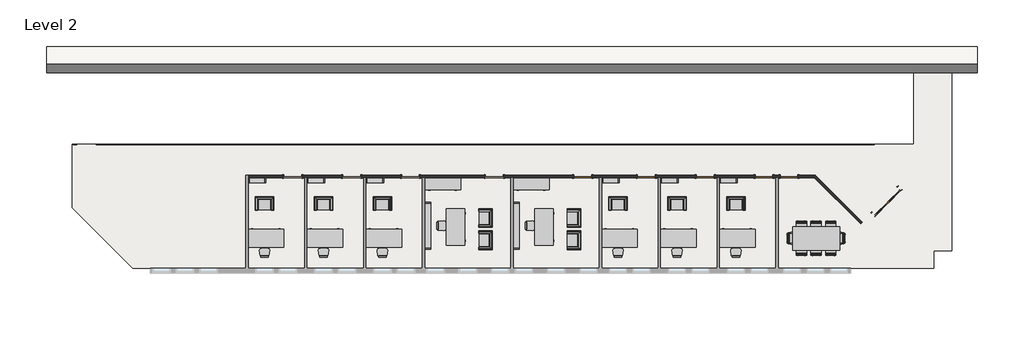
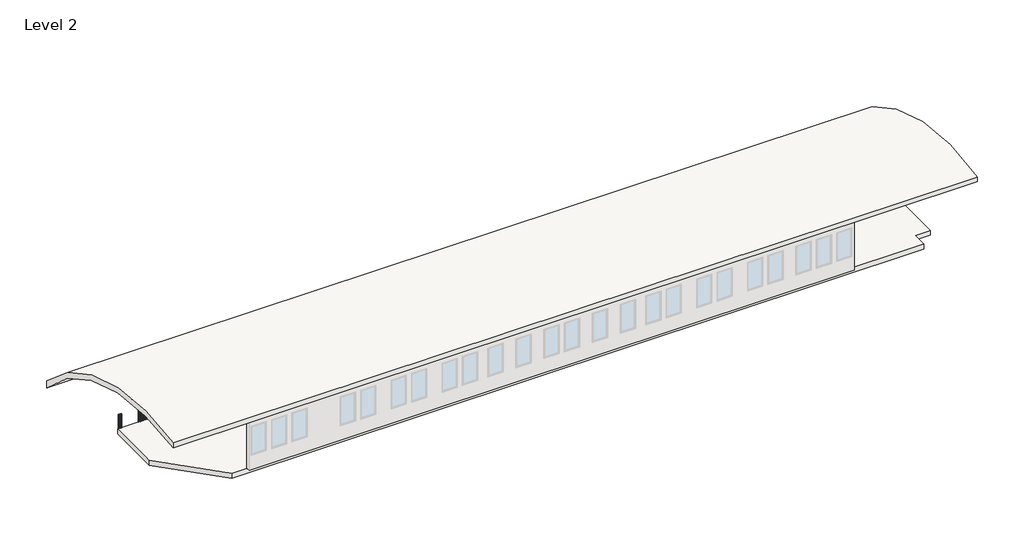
# One storey, part 2 of 2: 45 furniture elements, 6 doors, 2 railings, 2 walls, 1 roof, 1 slab.
"""IFC4 building model written with IfcOpenShell, lengths in millimetres."""

from ifc_helpers import new_model, si_unit, point, frame, frame_2d, origin, place, context, project, spatial, polyline, circle_curve, trimmed, segment, composite_curve, outline, extrude, faceted_brep, transform, mapped, element, save
from components import door_a1a3006e, door_88503111, door_eb9f8b14, chair_corbu_chair_corbu_2764bdef, chair_desk_chair_desk_ccc35c8f, chair_task_chair_task_b7f3823b, chair_task_arms_chair_task_arms_3b363349, furniture_7b927048, furniture_2fc54265, furniture_417d203a, furniture_b1da5ad0, furniture_bf544a6a, handrail_rectangular_fb009ace, handrail_rectangular_5135126e, handrail_rectangular_f3f7196c, handrail_rectangular_199c1d4d

model = new_model("IFC4")

# Units and contexts
model_context = context("Model", 3, world=origin())
ifc_project = project(units=[si_unit("LENGTHUNIT", "METRE", prefix="MILLI")], contexts=[model_context])

# Site, building, storey
site = spatial("IfcSite", under=ifc_project)
building = spatial("IfcBuilding", under=site)
storey = spatial("IfcBuildingStorey", under=building, Name="Level 2", Elevation=3657.6)

# Doors
placement = place(None, origin())
door_shape = door_a1a3006e(model_context)
element("IfcDoor", 1, ObjectType="Double-Glass 1 : 72\" x 84\"", at=placement, inside=storey, context=model_context, shape_type="MappedRepresentation", body=[
    mapped(door_shape, transform((30113.8004206, 1134.5614543, 3657.6), x_axis=(-0.707106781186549, -0.7071067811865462, 0.0), y_axis=(0.7071067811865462, -0.707106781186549, 0.0), z_axis=(0.0, 0.0, 1.0))),
])
door_2_shape = door_88503111(model_context)
element("IfcDoor", 2, ObjectType="Single-Flush : 36\" x 84\"", at=placement, inside=storey, context=model_context, shape_type="MappedRepresentation", body=[
    mapped(door_2_shape, transform((25068.3896094, 2425.2975872, 3657.6), x_axis=(-1.0, 0.0, 0.0), y_axis=(0.0, -1.0, 0.0), z_axis=(0.0, 0.0, 1.0))),
])
door_3_shape = door_eb9f8b14(model_context)
element("IfcDoor", 3, ObjectType="Single-Flush : 36\" x 84\"", at=placement, inside=storey, context=model_context, shape_type="MappedRepresentation", body=[
    mapped(door_3_shape, transform((17691.2771094, 2425.2975872, 3657.6), x_axis=(1.0, 0.0, 0.0), y_axis=(0.0, 1.0, 0.0), z_axis=(0.0, 0.0, 1.0))),
])
element("IfcDoor", 4, ObjectType="Single-Flush : 36\" x 84\"", at=placement, inside=storey, context=model_context, shape_type="MappedRepresentation", body=[
    mapped(door_3_shape, transform((20739.2771094, 2425.2975872, 3657.6), x_axis=(1.0, 0.0, 0.0), y_axis=(0.0, 1.0, 0.0), z_axis=(0.0, 0.0, 1.0))),
])
element("IfcDoor", 5, ObjectType="Single-Flush : 36\" x 84\"", at=placement, inside=storey, context=model_context, shape_type="MappedRepresentation", body=[
    mapped(door_3_shape, transform((23787.2771094, 2425.2975872, 3657.6), x_axis=(1.0, 0.0, 0.0), y_axis=(0.0, 1.0, 0.0), z_axis=(0.0, 0.0, 1.0))),
])
element("IfcDoor", 6, ObjectType="Single-Flush : 36\" x 84\"", at=placement, inside=storey, context=model_context, shape_type="MappedRepresentation", body=[
    mapped(door_3_shape, transform((14400.3896094, 2425.2975872, 3657.6), x_axis=(1.0, 0.0, 0.0), y_axis=(0.0, 1.0, 0.0), z_axis=(0.0, 0.0, 1.0))),
])

# Furniture
chair_corbu_chair_corbu_shape = chair_corbu_chair_corbu_2764bdef(model_context)
element("IfcFurniture", 7, ObjectType="Chair-Corbu : Chair-Corbu", at=placement, inside=storey, context=model_context, shape_type="MappedRepresentation", body=[
    mapped(chair_corbu_chair_corbu_shape, transform((-2632.1841611, 561.520538, 3657.6), x_axis=(1.0, 0.0, 0.0), y_axis=(0.0, 1.0, 0.0), z_axis=(0.0, 0.0, 1.0))),
])
element("IfcFurniture", 8, ObjectType="Chair-Corbu : Chair-Corbu", at=placement, inside=storey, context=model_context, shape_type="MappedRepresentation", body=[
    mapped(chair_corbu_chair_corbu_shape, transform((415.8158389, 561.520538, 3657.6), x_axis=(1.0, 0.0, 0.0), y_axis=(0.0, 1.0, 0.0), z_axis=(0.0, 0.0, 1.0))),
])
element("IfcFurniture", 9, ObjectType="Chair-Corbu : Chair-Corbu", at=placement, inside=storey, context=model_context, shape_type="MappedRepresentation", body=[
    mapped(chair_corbu_chair_corbu_shape, transform((15655.8158389, 561.520538, 3657.6), x_axis=(1.0, 0.0, 0.0), y_axis=(0.0, 1.0, 0.0), z_axis=(0.0, 0.0, 1.0))),
])
element("IfcFurniture", 10, ObjectType="Chair-Corbu : Chair-Corbu", at=placement, inside=storey, context=model_context, shape_type="MappedRepresentation", body=[
    mapped(chair_corbu_chair_corbu_shape, transform((18703.8158389, 561.520538, 3657.6), x_axis=(1.0, 0.0, 0.0), y_axis=(0.0, 1.0, 0.0), z_axis=(0.0, 0.0, 1.0))),
])
element("IfcFurniture", 11, ObjectType="Chair-Corbu : Chair-Corbu", at=placement, inside=storey, context=model_context, shape_type="MappedRepresentation", body=[
    mapped(chair_corbu_chair_corbu_shape, transform((21751.8158389, 561.520538, 3657.6), x_axis=(1.0, 0.0, 0.0), y_axis=(0.0, 1.0, 0.0), z_axis=(0.0, 0.0, 1.0))),
])
element("IfcFurniture", 12, ObjectType="Chair-Corbu : Chair-Corbu", at=placement, inside=storey, context=model_context, shape_type="MappedRepresentation", body=[
    mapped(chair_corbu_chair_corbu_shape, transform((8904.4125603, 839.6713577, 3657.6), x_axis=(0.0, -1.0, 0.0), y_axis=(1.0, 0.0, 0.0), z_axis=(0.0, 0.0, 1.0))),
])
element("IfcFurniture", 13, ObjectType="Chair-Corbu : Chair-Corbu", at=placement, inside=storey, context=model_context, shape_type="MappedRepresentation", body=[
    mapped(chair_corbu_chair_corbu_shape, transform((8904.4125603, -303.3286423, 3657.6), x_axis=(0.0, -1.0, 0.0), y_axis=(1.0, 0.0, 0.0), z_axis=(0.0, 0.0, 1.0))),
])
element("IfcFurniture", 14, ObjectType="Chair-Corbu : Chair-Corbu", at=placement, inside=storey, context=model_context, shape_type="MappedRepresentation", body=[
    mapped(chair_corbu_chair_corbu_shape, transform((3463.8158389, 561.520538, 3657.6), x_axis=(1.0, 0.0, 0.0), y_axis=(0.0, 1.0, 0.0), z_axis=(0.0, 0.0, 1.0))),
])
element("IfcFurniture", 15, ObjectType="Chair-Corbu : Chair-Corbu", at=placement, inside=storey, context=model_context, shape_type="MappedRepresentation", body=[
    mapped(chair_corbu_chair_corbu_shape, transform((13476.4125603, 839.6713577, 3657.6), x_axis=(0.0, -1.0, 0.0), y_axis=(1.0, 0.0, 0.0), z_axis=(0.0, 0.0, 1.0))),
])
element("IfcFurniture", 16, ObjectType="Chair-Corbu : Chair-Corbu", at=placement, inside=storey, context=model_context, shape_type="MappedRepresentation", body=[
    mapped(chair_corbu_chair_corbu_shape, transform((13476.4125603, -303.3286423, 3657.6), x_axis=(0.0, -1.0, 0.0), y_axis=(1.0, 0.0, 0.0), z_axis=(0.0, 0.0, 1.0))),
])
chair_desk_chair_desk_shape = chair_desk_chair_desk_ccc35c8f(model_context)
element("IfcFurniture", 17, ObjectType="Chair-Desk : Chair-Desk", at=placement, inside=storey, context=model_context, shape_type="MappedRepresentation", body=[
    mapped(chair_desk_chair_desk_shape, transform((-2058.8103906, -1689.5024128, 3657.6), x_axis=(1.0, 0.0, 0.0), y_axis=(0.0, 1.0, 0.0), z_axis=(0.0, 0.0, 1.0))),
])
element("IfcFurniture", 18, ObjectType="Chair-Desk : Chair-Desk", at=placement, inside=storey, context=model_context, shape_type="MappedRepresentation", body=[
    mapped(chair_desk_chair_desk_shape, transform((989.1896094, -1689.5024128, 3657.6), x_axis=(1.0, 0.0, 0.0), y_axis=(0.0, 1.0, 0.0), z_axis=(0.0, 0.0, 1.0))),
])
element("IfcFurniture", 19, ObjectType="Chair-Desk : Chair-Desk", at=placement, inside=storey, context=model_context, shape_type="MappedRepresentation", body=[
    mapped(chair_desk_chair_desk_shape, transform((16229.1896094, -1689.5024128, 3657.6), x_axis=(1.0, 0.0, 0.0), y_axis=(0.0, 1.0, 0.0), z_axis=(0.0, 0.0, 1.0))),
])
element("IfcFurniture", 20, ObjectType="Chair-Desk : Chair-Desk", at=placement, inside=storey, context=model_context, shape_type="MappedRepresentation", body=[
    mapped(chair_desk_chair_desk_shape, transform((19277.1896094, -1689.5024128, 3657.6), x_axis=(1.0, 0.0, 0.0), y_axis=(0.0, 1.0, 0.0), z_axis=(0.0, 0.0, 1.0))),
])
element("IfcFurniture", 21, ObjectType="Chair-Desk : Chair-Desk", at=placement, inside=storey, context=model_context, shape_type="MappedRepresentation", body=[
    mapped(chair_desk_chair_desk_shape, transform((22325.1896094, -1689.5024128, 3657.6), x_axis=(1.0, 0.0, 0.0), y_axis=(0.0, 1.0, 0.0), z_axis=(0.0, 0.0, 1.0))),
])
element("IfcFurniture", 22, ObjectType="Chair-Desk : Chair-Desk", at=placement, inside=storey, context=model_context, shape_type="MappedRepresentation", body=[
    mapped(chair_desk_chair_desk_shape, transform((6911.7586481, -128.9899128, 3657.6), x_axis=(0.0, -1.0, 0.0), y_axis=(1.0, 0.0, 0.0), z_axis=(0.0, 0.0, 1.0))),
])
element("IfcFurniture", 23, ObjectType="Chair-Desk : Chair-Desk", at=placement, inside=storey, context=model_context, shape_type="MappedRepresentation", body=[
    mapped(chair_desk_chair_desk_shape, transform((4037.1896094, -1689.5024128, 3657.6), x_axis=(1.0, 0.0, 0.0), y_axis=(0.0, 1.0, 0.0), z_axis=(0.0, 0.0, 1.0))),
])
element("IfcFurniture", 24, ObjectType="Chair-Desk : Chair-Desk", at=placement, inside=storey, context=model_context, shape_type="MappedRepresentation", body=[
    mapped(chair_desk_chair_desk_shape, transform((11483.7586481, -128.9899128, 3657.6), x_axis=(0.0, -1.0, 0.0), y_axis=(1.0, 0.0, 0.0), z_axis=(0.0, 0.0, 1.0))),
])
chair_task_chair_task_shape = chair_task_chair_task_b7f3823b(model_context)
element("IfcFurniture", 25, ObjectType="Chair-Task : Chair-Task", at=placement, inside=storey, context=model_context, shape_type="MappedRepresentation", body=[
    mapped(chair_task_chair_task_shape, transform((25572.0033185, -1403.6483145, 3657.6), x_axis=(1.0, 0.0, 0.0), y_axis=(0.0, 1.0, 0.0), z_axis=(0.0, 0.0, 1.0))),
])
element("IfcFurniture", 26, ObjectType="Chair-Task : Chair-Task", at=placement, inside=storey, context=model_context, shape_type="MappedRepresentation", body=[
    mapped(chair_task_chair_task_shape, transform((25853.9849578, -146.5565112, 3657.6), x_axis=(-1.0, 0.0, 0.0), y_axis=(0.0, -1.0, 0.0), z_axis=(0.0, 0.0, 1.0))),
])
element("IfcFurniture", 27, ObjectType="Chair-Task : Chair-Task", at=placement, inside=storey, context=model_context, shape_type="MappedRepresentation", body=[
    mapped(chair_task_chair_task_shape, transform((27096.0033185, -1403.6483145, 3657.6), x_axis=(1.0, 0.0, 0.0), y_axis=(0.0, 1.0, 0.0), z_axis=(0.0, 0.0, 1.0))),
])
element("IfcFurniture", 28, ObjectType="Chair-Task : Chair-Task", at=placement, inside=storey, context=model_context, shape_type="MappedRepresentation", body=[
    mapped(chair_task_chair_task_shape, transform((26334.0033185, -1403.6483145, 3657.6), x_axis=(1.0, 0.0, 0.0), y_axis=(0.0, 1.0, 0.0), z_axis=(0.0, 0.0, 1.0))),
])
element("IfcFurniture", 29, ObjectType="Chair-Task : Chair-Task", at=placement, inside=storey, context=model_context, shape_type="MappedRepresentation", body=[
    mapped(chair_task_chair_task_shape, transform((27377.9849578, -146.5565112, 3657.6), x_axis=(-1.0, 0.0, 0.0), y_axis=(0.0, -1.0, 0.0), z_axis=(0.0, 0.0, 1.0))),
])
element("IfcFurniture", 30, ObjectType="Chair-Task : Chair-Task", at=placement, inside=storey, context=model_context, shape_type="MappedRepresentation", body=[
    mapped(chair_task_chair_task_shape, transform((26615.9849578, -146.5565112, 3657.6), x_axis=(-1.0, 0.0, 0.0), y_axis=(0.0, -1.0, 0.0), z_axis=(0.0, 0.0, 1.0))),
])
chair_task_arms_chair_task_arms_shape = chair_task_arms_chair_task_arms_3b363349(model_context)
element("IfcFurniture", 31, ObjectType="Chair-Task Arms : Chair-Task Arms", at=placement, inside=storey, context=model_context, shape_type="MappedRepresentation", body=[
    mapped(chair_task_arms_chair_task_arms_shape, transform((25236.8482365, -634.1115932, 3657.6), x_axis=(0.0, -1.0, 0.0), y_axis=(1.0, 0.0, 0.0), z_axis=(0.0, 0.0, 1.0))),
])
element("IfcFurniture", 32, ObjectType="Chair-Task Arms : Chair-Task Arms", at=placement, inside=storey, context=model_context, shape_type="MappedRepresentation", body=[
    mapped(chair_task_arms_chair_task_arms_shape, transform((27713.1400398, -916.0932325, 3657.6), x_axis=(0.0, 1.0000000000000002, 0.0), y_axis=(-1.0000000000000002, 0.0, 0.0), z_axis=(0.0, 0.0, 1.0))),
])
furniture_shape = furniture_7b927048(model_context)
element("IfcFurniture", 33, ObjectType="Credenza : 72\" x 24\"", at=placement, inside=storey, context=model_context, shape_type="MappedRepresentation", body=[
    mapped(furniture_shape, transform((7087.5578471, 2054.0047593, 3657.6), x_axis=(1.0, 0.0, 0.0), y_axis=(0.0, 1.0, 0.0), z_axis=(0.0, 0.0, 1.0))),
])
element("IfcFurniture", 34, ObjectType="Credenza : 72\" x 24\"", at=placement, inside=storey, context=model_context, shape_type="MappedRepresentation", body=[
    mapped(furniture_shape, transform((11659.5578471, 2054.0047593, 3657.6), x_axis=(1.0, 0.0, 0.0), y_axis=(0.0, 1.0, 0.0), z_axis=(0.0, 0.0, 1.0))),
])
furniture_2_shape = furniture_2fc54265(model_context)
element("IfcFurniture", 35, ObjectType="Desk : 72\" x 36\"", at=placement, inside=storey, context=model_context, shape_type="MappedRepresentation", body=[
    mapped(furniture_2_shape, transform((-2911.2978906, -1232.3024128, 3657.6), x_axis=(1.0, 0.0, 0.0), y_axis=(0.0, 1.0, 0.0), z_axis=(0.0, 0.0, 1.0))),
])
element("IfcFurniture", 36, ObjectType="Desk : 72\" x 36\"", at=placement, inside=storey, context=model_context, shape_type="MappedRepresentation", body=[
    mapped(furniture_2_shape, transform((136.7021094, -1232.3024128, 3657.6), x_axis=(1.0, 0.0, 0.0), y_axis=(0.0, 1.0, 0.0), z_axis=(0.0, 0.0, 1.0))),
])
element("IfcFurniture", 37, ObjectType="Desk : 72\" x 36\"", at=placement, inside=storey, context=model_context, shape_type="MappedRepresentation", body=[
    mapped(furniture_2_shape, transform((15376.7021094, -1232.3024128, 3657.6), x_axis=(1.0, 0.0, 0.0), y_axis=(0.0, 1.0, 0.0), z_axis=(0.0, 0.0, 1.0))),
])
element("IfcFurniture", 38, ObjectType="Desk : 72\" x 36\"", at=placement, inside=storey, context=model_context, shape_type="MappedRepresentation", body=[
    mapped(furniture_2_shape, transform((18424.7021094, -1232.3024128, 3657.6), x_axis=(1.0, 0.0, 0.0), y_axis=(0.0, 1.0, 0.0), z_axis=(0.0, 0.0, 1.0))),
])
element("IfcFurniture", 39, ObjectType="Desk : 72\" x 36\"", at=placement, inside=storey, context=model_context, shape_type="MappedRepresentation", body=[
    mapped(furniture_2_shape, transform((21472.7021094, -1232.3024128, 3657.6), x_axis=(1.0, 0.0, 0.0), y_axis=(0.0, 1.0, 0.0), z_axis=(0.0, 0.0, 1.0))),
])
element("IfcFurniture", 40, ObjectType="Desk : 72\" x 36\"", at=placement, inside=storey, context=model_context, shape_type="MappedRepresentation", body=[
    mapped(furniture_2_shape, transform((7368.9586481, 723.4975872, 3657.6), x_axis=(0.0, -1.0, 0.0), y_axis=(1.0, 0.0, 0.0), z_axis=(0.0, 0.0, 1.0))),
])
element("IfcFurniture", 41, ObjectType="Desk : 72\" x 36\"", at=placement, inside=storey, context=model_context, shape_type="MappedRepresentation", body=[
    mapped(furniture_2_shape, transform((3184.7021094, -1232.3024128, 3657.6), x_axis=(1.0, 0.0, 0.0), y_axis=(0.0, 1.0, 0.0), z_axis=(0.0, 0.0, 1.0))),
])
element("IfcFurniture", 42, ObjectType="Desk : 72\" x 36\"", at=placement, inside=storey, context=model_context, shape_type="MappedRepresentation", body=[
    mapped(furniture_2_shape, transform((11940.9586481, 723.4975872, 3657.6), x_axis=(0.0, -1.0, 0.0), y_axis=(1.0, 0.0, 0.0), z_axis=(0.0, 0.0, 1.0))),
])
furniture_3_shape = furniture_417d203a(model_context)
element("IfcFurniture", 43, ObjectType="Shelving : 36\" x 10\" x 72\"", at=placement, inside=storey, context=model_context, shape_type="MappedRepresentation", body=[
    mapped(furniture_3_shape, transform((-2454.0978906, 2541.1850872, 3657.6), x_axis=(1.0, 0.0, 0.0), y_axis=(0.0, 1.0, 0.0), z_axis=(0.0, 0.0, 1.0))),
])
element("IfcFurniture", 44, ObjectType="Shelving : 36\" x 10\" x 72\"", at=placement, inside=storey, context=model_context, shape_type="MappedRepresentation", body=[
    mapped(furniture_3_shape, transform((593.9021094, 2541.1850872, 3657.6), x_axis=(1.0, 0.0, 0.0), y_axis=(0.0, 1.0, 0.0), z_axis=(0.0, 0.0, 1.0))),
])
element("IfcFurniture", 45, ObjectType="Shelving : 36\" x 10\" x 72\"", at=placement, inside=storey, context=model_context, shape_type="MappedRepresentation", body=[
    mapped(furniture_3_shape, transform((15833.9021094, 2541.1850872, 3657.6), x_axis=(1.0, 0.0, 0.0), y_axis=(0.0, 1.0, 0.0), z_axis=(0.0, 0.0, 1.0))),
])
element("IfcFurniture", 46, ObjectType="Shelving : 36\" x 10\" x 72\"", at=placement, inside=storey, context=model_context, shape_type="MappedRepresentation", body=[
    mapped(furniture_3_shape, transform((18881.9021094, 2541.1850872, 3657.6), x_axis=(1.0, 0.0, 0.0), y_axis=(0.0, 1.0, 0.0), z_axis=(0.0, 0.0, 1.0))),
])
element("IfcFurniture", 47, ObjectType="Shelving : 36\" x 10\" x 72\"", at=placement, inside=storey, context=model_context, shape_type="MappedRepresentation", body=[
    mapped(furniture_3_shape, transform((21929.9021094, 2541.1850872, 3657.6), x_axis=(1.0, 0.0, 0.0), y_axis=(0.0, 1.0, 0.0), z_axis=(0.0, 0.0, 1.0))),
])
element("IfcFurniture", 48, ObjectType="Shelving : 36\" x 10\" x 72\"", at=placement, inside=storey, context=model_context, shape_type="MappedRepresentation", body=[
    mapped(furniture_3_shape, transform((3641.9021094, 2541.1850872, 3657.6), x_axis=(1.0, 0.0, 0.0), y_axis=(0.0, 1.0, 0.0), z_axis=(0.0, 0.0, 1.0))),
])
furniture_4_shape = furniture_b1da5ad0(model_context)
element("IfcFurniture", 49, ObjectType="Shelving : 96\" x 12\" x 84\"", at=placement, inside=storey, context=model_context, shape_type="MappedRepresentation", body=[
    mapped(furniture_4_shape, transform((6080.3021094, -128.9899128, 3657.6), x_axis=(0.0, 1.0, 0.0), y_axis=(-1.0, 0.0, 0.0), z_axis=(0.0, 0.0, 1.0))),
])
element("IfcFurniture", 50, ObjectType="Shelving : 96\" x 12\" x 84\"", at=placement, inside=storey, context=model_context, shape_type="MappedRepresentation", body=[
    mapped(furniture_4_shape, transform((10652.3021094, -128.9899128, 3657.6), x_axis=(0.0, 1.0, 0.0), y_axis=(-1.0, 0.0, 0.0), z_axis=(0.0, 0.0, 1.0))),
])
furniture_5_shape = furniture_bf544a6a(model_context)
element("IfcFurniture", 51, ObjectType="Table-Conference with Chairs : 48\" x 96\"", at=placement, inside=storey, context=model_context, shape_type="MappedRepresentation", body=[
    mapped(furniture_5_shape, transform((26474.9941381, -775.1024128, 3657.6), x_axis=(1.0, 0.0, 0.0), y_axis=(0.0, 1.0, 0.0), z_axis=(0.0, 0.0, 1.0))),
])

# Railings
handrail_rectangular_shape = handrail_rectangular_fb009ace(model_context)
element("IfcRailing", 52, ObjectType="Handrail - Rectangular", at=placement, inside=storey, context=model_context, shape_type="MappedRepresentation", body=[
    mapped(handrail_rectangular_shape, transform((0.0, 0.0, 0.0), x_axis=(1.0, 0.0, 0.0), y_axis=(0.0, 1.0, 0.0), z_axis=(0.0, 0.0, 1.0))),
])
handrail_rectangular_2_shape = handrail_rectangular_5135126e(model_context)
handrail_rectangular_3_shape = handrail_rectangular_f3f7196c(model_context)
handrail_rectangular_4_shape = handrail_rectangular_199c1d4d(model_context)
element("IfcRailing", 53, ObjectType="Handrail - Rectangular", at=placement, inside=storey, context=model_context, shape_type="MappedRepresentation", body=[
    mapped(handrail_rectangular_2_shape, transform((0.0, 0.0, 0.0), x_axis=(1.0, 0.0, 0.0), y_axis=(0.0, 1.0, 0.0), z_axis=(0.0, 0.0, 1.0))),
    mapped(handrail_rectangular_3_shape, transform((0.0, 0.0, 0.0), x_axis=(1.0, 0.0, 0.0), y_axis=(0.0, 1.0, 0.0), z_axis=(0.0, 0.0, 1.0))),
    mapped(handrail_rectangular_4_shape, transform((0.0, 0.0, 0.0), x_axis=(1.0, 0.0, 0.0), y_axis=(0.0, 1.0, 0.0), z_axis=(0.0, 0.0, 1.0))),
])

# Roof
element("IfcRoof", 54, ObjectType="Generic - 12\"", at=placement, inside=storey, context=model_context, shape_type="SweptSolid", body=[
    extrude(outline(composite_curve([segment(trimmed(circle_curve(frame_2d((-1041.3166946, -5743.4275557)), 14174.8131102), [point((-3972.6760328, 8124.970302))], [point((9144.0, 4114.8))], False, "CARTESIAN"), True, "CONTINUOUS"), segment(polyline([(9144.0, 4114.8), (9144.0, 3671.2730507)]), True, "CONTINUOUS"), segment(trimmed(circle_curve(frame_2d((-1041.3166946, -5743.4275557)), 13870.0131102), [point((9144.0, 3671.2730507))], [point((-3972.6760328, 7813.2828162))], True, "CARTESIAN"), True, "CONTINUOUS"), segment(polyline([(-3972.6760328, 7813.2828162), (-3972.6760328, 8124.970302)]), True, "CONTINUOUS")], self_intersect=False)), frame((-13336.4103906, 0.0, 0.0), z_axis=(1.0, 0.0, 0.0), x_axis=(0.0, 1.0, 0.0)), (0.0, 0.0, 1.0), 48158.4),
])

# Slab
element("IfcSlab", 55, ObjectType="Generic - 12\"", at=placement, inside=storey, context=model_context, shape_type="SweptSolid", body=[
    extrude(outline(polyline([(-11996.5603906, 4101.6975872), (31531.1021094, 4101.6975872), (31531.1021094, 8521.2975872), (33482.1396094, 8521.2975872), (33482.1396094, -1416.4524128), (32567.7396094, -1416.4524128), (32567.7396094, -2330.8524128), (-8888.2248574, -2330.8524128), (-11996.5603906, 806.4159377), (-11996.5603906, 4101.6975872)])), frame((0.0, 0.0, 3352.8), z_axis=(0.0, 0.0, 1.0), x_axis=(1.0, 0.0, 0.0)), (0.0, 0.0, 1.0), 304.8),
])

# Walls
element("IfcWall", 56, ObjectType="Interior - 4 7/8\" Partition (1-hr)", at=placement, inside=storey, context=model_context, shape_type="Brep", body=[
    faceted_brep([(28864.7266292, 52.7449332, 3657.6), (26430.2614752, 2487.2100872, 3657.6), (26430.2614752, 2487.2100872, 7315.2), (28864.7266292, 52.7449332, 7315.2), (28777.169132, -34.812564, 3657.6), (28777.169132, -34.812564, 7315.2), (26378.9714808, 2363.3850872, 7315.2), (26255.1464808, 2487.2100872, 7315.2), (26255.1464808, 2487.2100872, 3657.6), (26378.9714808, 2363.3850872, 3657.6)], [[[0, 1, 2, 3]], [[4, 5, 6, 7, 8, 9]], [[1, 0, 4, 9, 8]], [[3, 2, 7, 6, 5]], [[2, 1, 8, 7]], [[0, 3, 5, 4]]]),
])
element("IfcWall", 57, ObjectType="Interior - 4 7/8\" Partition (1-hr)", at=placement, inside=storey, context=model_context, shape_type="Brep", body=[
    faceted_brep([(14857.5896094, 2363.3850872, 5791.2), (14857.5896094, 2363.3850872, 3657.6), (15252.8771094, 2363.3850872, 3657.6), (15376.7021094, 2363.3850872, 3657.6), (17234.0771094, 2363.3850872, 3657.6), (17234.0771094, 2363.3850872, 5791.2), (18148.4771094, 2363.3850872, 5791.2), (18148.4771094, 2363.3850872, 3657.6), (18300.8771094, 2363.3850872, 3657.6), (18424.7021094, 2363.3850872, 3657.6), (20282.0771094, 2363.3850872, 3657.6), (20282.0771094, 2363.3850872, 5791.2), (21196.4771094, 2363.3850872, 5791.2), (21196.4771094, 2363.3850872, 3657.6), (21348.8771094, 2363.3850872, 3657.6), (21472.7021094, 2363.3850872, 3657.6), (23330.0771094, 2363.3850872, 3657.6), (23330.0771094, 2363.3850872, 5791.2), (24244.4771094, 2363.3850872, 5791.2), (24244.4771094, 2363.3850872, 3657.6), (24396.8771094, 2363.3850872, 3657.6), (24520.7021094, 2363.3850872, 3657.6), (24611.1896094, 2363.3850872, 3657.6), (24611.1896094, 2363.3850872, 5791.2), (25525.5896094, 2363.3850872, 5791.2), (25525.5896094, 2363.3850872, 3657.6), (26378.9714808, 2363.3850872, 3657.6), (26378.9714808, 2363.3850872, 7315.2), (24520.7021094, 2363.3850872, 7315.2), (24396.8771094, 2363.3850872, 7315.2), (21472.7021094, 2363.3850872, 7315.2), (21348.8771094, 2363.3850872, 7315.2), (18424.7021094, 2363.3850872, 7315.2), (18300.8771094, 2363.3850872, 7315.2), (15376.7021094, 2363.3850872, 7315.2), (15252.8771094, 2363.3850872, 7315.2), (10804.7021094, 2363.3850872, 7315.2), (10680.8771094, 2363.3850872, 7315.2), (6232.7021094, 2363.3850872, 7315.2), (6108.8771094, 2363.3850872, 7315.2), (3184.7021094, 2363.3850872, 7315.2), (3060.8771094, 2363.3850872, 7315.2), (136.7021094, 2363.3850872, 7315.2), (12.8771094, 2363.3850872, 7315.2), (-2911.2978906, 2363.3850872, 7315.2), (-2911.2978906, 2363.3850872, 3657.6), (-1053.9228906, 2363.3850872, 3657.6), (-1053.9228906, 2363.3850872, 5791.2), (-139.5228906, 2363.3850872, 5791.2), (-139.5228906, 2363.3850872, 3657.6), (12.8771094, 2363.3850872, 3657.6), (136.7021094, 2363.3850872, 3657.6), (1994.0771094, 2363.3850872, 3657.6), (1994.0771094, 2363.3850872, 5791.2), (2908.4771094, 2363.3850872, 5791.2), (2908.4771094, 2363.3850872, 3657.6), (3060.8771094, 2363.3850872, 3657.6), (3184.7021094, 2363.3850872, 3657.6), (5042.0771094, 2363.3850872, 3657.6), (5042.0771094, 2363.3850872, 5791.2), (5956.4771094, 2363.3850872, 5791.2), (5956.4771094, 2363.3850872, 3657.6), (6108.8771094, 2363.3850872, 3657.6), (6232.7021094, 2363.3850872, 3657.6), (9371.1896094, 2363.3850872, 3657.6), (9371.1896094, 2363.3850872, 5791.2), (10285.5896094, 2363.3850872, 5791.2), (10285.5896094, 2363.3850872, 3657.6), (10680.8771094, 2363.3850872, 3657.6), (10804.7021094, 2363.3850872, 3657.6), (13943.1896094, 2363.3850872, 3657.6), (13943.1896094, 2363.3850872, 5791.2), (17234.0771094, 2487.2100872, 3657.6), (14857.5896094, 2487.2100872, 3657.6), (14857.5896094, 2487.2100872, 5791.2), (13943.1896094, 2487.2100872, 5791.2), (13943.1896094, 2487.2100872, 3657.6), (10285.5896094, 2487.2100872, 3657.6), (10285.5896094, 2487.2100872, 5791.2), (9371.1896094, 2487.2100872, 5791.2), (9371.1896094, 2487.2100872, 3657.6), (5956.4771094, 2487.2100872, 3657.6), (5956.4771094, 2487.2100872, 5791.2), (5042.0771094, 2487.2100872, 5791.2), (5042.0771094, 2487.2100872, 3657.6), (2908.4771094, 2487.2100872, 3657.6), (2908.4771094, 2487.2100872, 5791.2), (1994.0771094, 2487.2100872, 5791.2), (1994.0771094, 2487.2100872, 3657.6), (-139.5228906, 2487.2100872, 3657.6), (-139.5228906, 2487.2100872, 5791.2), (-1053.9228906, 2487.2100872, 5791.2), (-1053.9228906, 2487.2100872, 3657.6), (-2911.2978906, 2487.2100872, 3657.6), (-2911.2978906, 2487.2100872, 7315.2), (26255.1464808, 2487.2100872, 7315.2), (26255.1464808, 2487.2100872, 3657.6), (25525.5896094, 2487.2100872, 3657.6), (25525.5896094, 2487.2100872, 5791.2), (24611.1896094, 2487.2100872, 5791.2), (24611.1896094, 2487.2100872, 3657.6), (24244.4771094, 2487.2100872, 3657.6), (24244.4771094, 2487.2100872, 5791.2), (23330.0771094, 2487.2100872, 5791.2), (23330.0771094, 2487.2100872, 3657.6), (21196.4771094, 2487.2100872, 3657.6), (21196.4771094, 2487.2100872, 5791.2), (20282.0771094, 2487.2100872, 5791.2), (20282.0771094, 2487.2100872, 3657.6), (18148.4771094, 2487.2100872, 3657.6), (18148.4771094, 2487.2100872, 5791.2), (17234.0771094, 2487.2100872, 5791.2)], [[[0, 1, 2, 3, 4, 5, 6, 7, 8, 9, 10, 11, 12, 13, 14, 15, 16, 17, 18, 19, 20, 21, 22, 23, 24, 25, 26, 27, 28, 29, 30, 31, 32, 33, 34, 35, 36, 37, 38, 39, 40, 41, 42, 43, 44, 45, 46, 47, 48, 49, 50, 51, 52, 53, 54, 55, 56, 57, 58, 59, 60, 61, 62, 63, 64, 65, 66, 67, 68, 69, 70, 71]], [[72, 73, 74, 75, 76, 77, 78, 79, 80, 81, 82, 83, 84, 85, 86, 87, 88, 89, 90, 91, 92, 93, 94, 95, 96, 97, 98, 99, 100, 101, 102, 103, 104, 105, 106, 107, 108, 109, 110, 111]], [[22, 21, 20, 19, 101, 100]], [[97, 96, 26, 25]], [[46, 45, 93, 92]], [[52, 51, 50, 49, 89, 88]], [[4, 3, 2, 1, 73, 72]], [[10, 9, 8, 7, 109, 108]], [[16, 15, 14, 13, 105, 104]], [[64, 63, 62, 61, 81, 80]], [[58, 57, 56, 55, 85, 84]], [[70, 69, 68, 67, 77, 76]], [[44, 43, 42, 41, 40, 39, 38, 37, 36, 35, 34, 33, 32, 31, 30, 29, 28, 27, 95, 94]], [[45, 44, 94, 93]], [[27, 26, 96, 95]], [[23, 22, 100, 99]], [[24, 23, 99, 98]], [[25, 24, 98, 97]], [[90, 89, 49, 48]], [[91, 90, 48, 47]], [[92, 91, 47, 46]], [[86, 85, 55, 54]], [[87, 86, 54, 53]], [[88, 87, 53, 52]], [[110, 109, 7, 6]], [[111, 110, 6, 5]], [[72, 111, 5, 4]], [[106, 105, 13, 12]], [[107, 106, 12, 11]], [[108, 107, 11, 10]], [[102, 101, 19, 18]], [[103, 102, 18, 17]], [[104, 103, 17, 16]], [[78, 77, 67, 66]], [[79, 78, 66, 65]], [[80, 79, 65, 64]], [[82, 81, 61, 60]], [[83, 82, 60, 59]], [[84, 83, 59, 58]], [[74, 73, 1, 0]], [[75, 74, 0, 71]], [[76, 75, 71, 70]]]),
])

save(model, "model.ifc")
